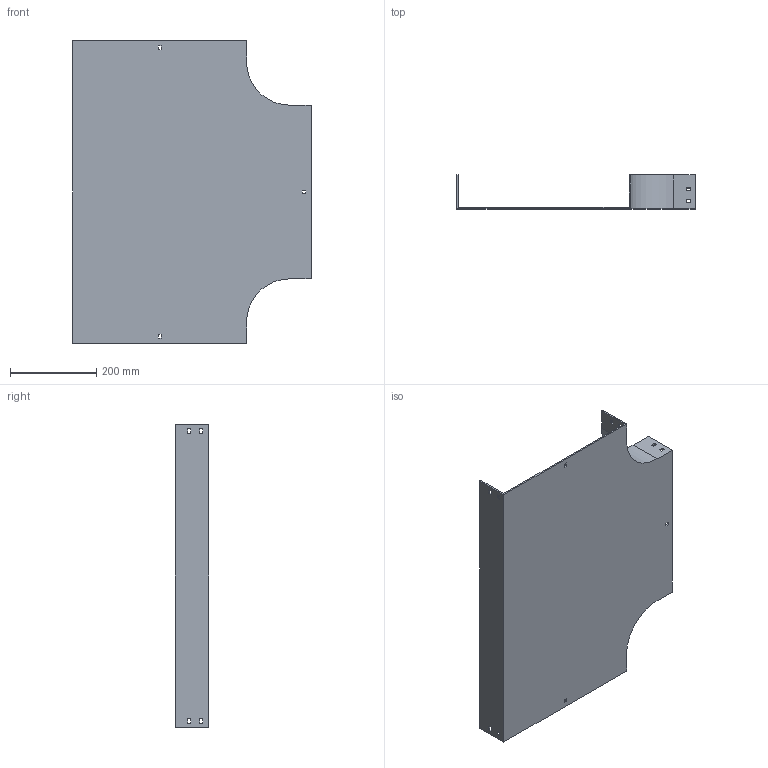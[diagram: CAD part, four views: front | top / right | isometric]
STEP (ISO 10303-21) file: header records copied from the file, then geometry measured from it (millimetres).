
FILE_DESCRIPTION (( 'STEP AP214' ), '1' );
FILE_NAME ('15B1C400.step', '2025-02-21T09:55:24', ( '' ), ( '' ), 'SwSTEP 2.0', 'SolidWorks 2023', '' );
FILE_SCHEMA (( 'AUTOMOTIVE_DESIGN' ));
Length unit declared in the file: millimetre
Products named in the file (1): 15B1C400
Bounding box: 554 x 79 x 704 mm (x, y, z)
Volume: 1542375.3 mm3; surface area: 893201.8 mm2
Topology: 1 solids, 1 shells, 82 faces, 240 edges, 160 vertices
Faces by surface type: plane 78, cylinder 4
Entity records: 2755 total; most frequent: CARTESIAN_POINT 483, ORIENTED_EDGE 480, DIRECTION 414, EDGE_CURVE 240, VECTOR 232, LINE 232, VERTEX_POINT 160, EDGE_LOOP 112
